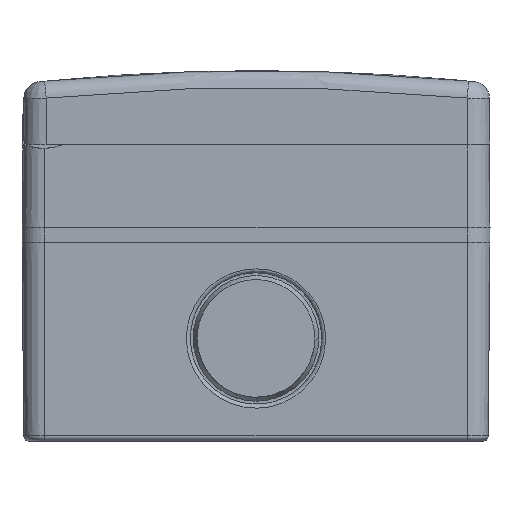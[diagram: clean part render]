
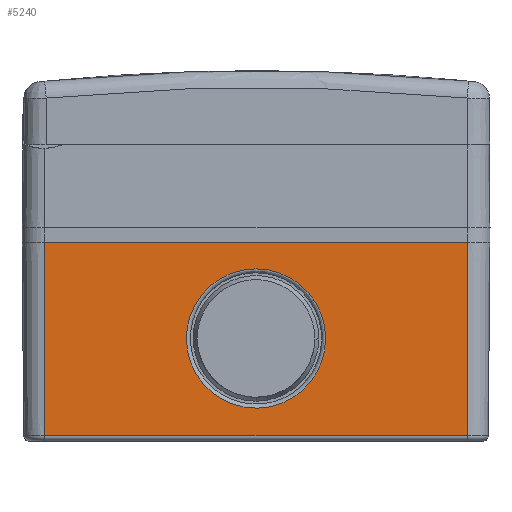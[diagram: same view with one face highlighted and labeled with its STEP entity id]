
A CAD part, front view. The second image highlights one B-rep face of the part: STEP entity #5240.
In plain terms, the highlighted planar face has unit normal (0, -1, -0.009).
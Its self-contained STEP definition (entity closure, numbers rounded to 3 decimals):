
#502=ELLIPSE('',#45695,12.2,12.2);
#1448=FACE_BOUND('',#10208,.T.);
#1449=FACE_BOUND('',#10209,.T.);
#2760=PLANE('',#45778);
#5240=ADVANCED_FACE('',(#1448,#1449),#2760,.T.);
#10208=EDGE_LOOP('',(#27436,#27437,#27438,#27439));
#10209=EDGE_LOOP('',(#27440));
#13997=LINE('',#72951,#18034);
#14068=LINE('',#73710,#18105);
#14106=LINE('',#73798,#18143);
#14108=LINE('',#73801,#18145);
#18034=VECTOR('',#54660,1.);
#18105=VECTOR('',#54857,1.);
#18143=VECTOR('',#54953,1.);
#18145=VECTOR('',#54957,1.);
#27436=ORIENTED_EDGE('',*,*,#39912,.T.);
#27437=ORIENTED_EDGE('',*,*,#39863,.T.);
#27438=ORIENTED_EDGE('',*,*,#39910,.F.);
#27439=ORIENTED_EDGE('',*,*,#39746,.F.);
#27440=ORIENTED_EDGE('',*,*,#39756,.T.);
#34322=VERTEX_POINT('',#72952);
#34323=VERTEX_POINT('',#72953);
#34331=VERTEX_POINT('',#73027);
#34412=VERTEX_POINT('',#73704);
#34415=VERTEX_POINT('',#73709);
#39746=EDGE_CURVE('',#34322,#34323,#13997,.T.);
#39756=EDGE_CURVE('',#34331,#34331,#502,.T.);
#39863=EDGE_CURVE('',#34412,#34415,#14068,.T.);
#39910=EDGE_CURVE('',#34323,#34415,#14106,.T.);
#39912=EDGE_CURVE('',#34322,#34412,#14108,.T.);
#45695=AXIS2_PLACEMENT_3D('',#73026,#54682,#54683);
#45778=AXIS2_PLACEMENT_3D('',#73802,#54958,#54959);
#54660=DIRECTION('',(0.,0.009,-1.));
#54682=DIRECTION('',(0.,1.,0.009));
#54683=DIRECTION('',(0.,-0.009,1.));
#54857=DIRECTION('',(0.,0.009,-1.));
#54953=DIRECTION('',(-1.,0.,0.));
#54957=DIRECTION('',(-1.,0.,0.));
#54958=DIRECTION('',(0.,-1.,-0.009));
#54959=DIRECTION('',(1.,0.,0.));
#72951=CARTESIAN_POINT('',(182.479,-33.99,-19.577));
#72952=CARTESIAN_POINT('',(182.479,-33.99,-19.577));
#72953=CARTESIAN_POINT('',(182.479,-33.694,-53.419));
#73026=CARTESIAN_POINT('',(145.479,-33.843,-36.417));
#73027=CARTESIAN_POINT('',(145.479,-33.949,-24.217));
#73704=CARTESIAN_POINT('',(108.479,-33.99,-19.577));
#73709=CARTESIAN_POINT('',(108.479,-33.694,-53.419));
#73710=CARTESIAN_POINT('',(108.479,-33.99,-19.577));
#73798=CARTESIAN_POINT('',(182.479,-33.694,-53.419));
#73801=CARTESIAN_POINT('',(182.479,-33.99,-19.577));
#73802=CARTESIAN_POINT('',(182.481,-33.99,-19.575));
